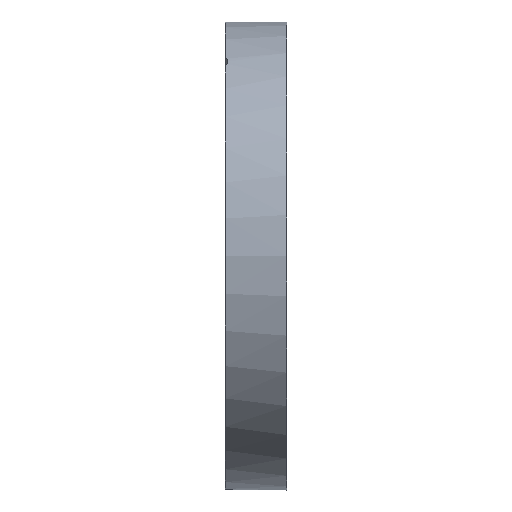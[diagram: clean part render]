
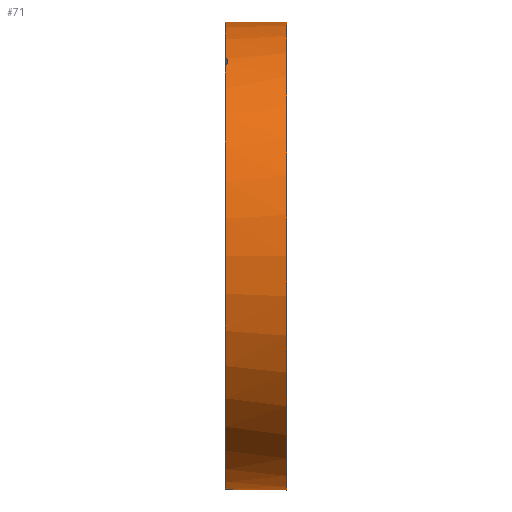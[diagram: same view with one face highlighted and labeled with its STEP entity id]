
A CAD part, top view. The second image highlights one B-rep face of the part: STEP entity #71.
In plain terms, the highlighted cylindrical face has radius 76 mm (diameter 152 mm), a full revolution.
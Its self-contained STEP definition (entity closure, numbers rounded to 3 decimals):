
#71 = ADVANCED_FACE( '', ( #171, #172 ), #173, .T. );
#171 = FACE_OUTER_BOUND( '', #322, .T. );
#172 = FACE_OUTER_BOUND( '', #323, .T. );
#173 = CYLINDRICAL_SURFACE( '', #324, 76. );
#322 = EDGE_LOOP( '', ( #488 ) );
#323 = EDGE_LOOP( '', ( #489, #490, #491, #492 ) );
#324 = AXIS2_PLACEMENT_3D( '', #493, #494, #495 );
#488 = ORIENTED_EDGE( '', *, *, #679, .T. );
#489 = ORIENTED_EDGE( '', *, *, #680, .F. );
#490 = ORIENTED_EDGE( '', *, *, #674, .F. );
#491 = ORIENTED_EDGE( '', *, *, #681, .F. );
#492 = ORIENTED_EDGE( '', *, *, #682, .F. );
#493 = CARTESIAN_POINT( '', ( -60., 0., 0. ) );
#494 = DIRECTION( '', ( 1., 0., 0. ) );
#495 = DIRECTION( '', ( 0., 0., 1. ) );
#674 = EDGE_CURVE( '', #777, #773, #779, .T. );
#679 = EDGE_CURVE( '', #786, #786, #787, .T. );
#680 = EDGE_CURVE( '', #773, #788, #789, .T. );
#681 = EDGE_CURVE( '', #790, #777, #791, .T. );
#682 = EDGE_CURVE( '', #788, #790, #792, .T. );
#773 = VERTEX_POINT( '', #902 );
#777 = VERTEX_POINT( '', #907 );
#779 = CIRCLE( '', #910, 76. );
#786 = VERTEX_POINT( '', #917 );
#787 = CIRCLE( '', #918, 76. );
#788 = VERTEX_POINT( '', #919 );
#789 = B_SPLINE_CURVE_WITH_KNOTS( '', 3, ( #920, #921, #922, #923, #924, #925, #926, #927, #928, #929, #930, #931, #932, #933, #934, #935, #936, #937 ), .UNSPECIFIED., .F., .F., ( 4, 2, 2, 2, 2, 2, 2, 2, 4 ), ( 0., 0.001, 0.001, 0.002, 0.002, 0.003, 0.003, 0.004, 0.004 ), .UNSPECIFIED. );
#790 = VERTEX_POINT( '', #938 );
#791 = B_SPLINE_CURVE_WITH_KNOTS( '', 3, ( #939, #940, #941, #942, #943, #944, #945, #946, #947, #948, #949, #950, #951, #952, #953, #954, #955, #956 ), .UNSPECIFIED., .F., .F., ( 4, 2, 2, 2, 2, 2, 2, 2, 4 ), ( 0., 0.001, 0.001, 0.002, 0.002, 0.003, 0.003, 0.004, 0.004 ), .UNSPECIFIED. );
#792 = CIRCLE( '', #957, 76. );
#902 = CARTESIAN_POINT( '', ( -19.9, -62.036, -43.904 ) );
#907 = CARTESIAN_POINT( '', ( -19.9, 64.302, 40.512 ) );
#910 = AXIS2_PLACEMENT_3D( '', #1119, #1120, #1121 );
#917 = CARTESIAN_POINT( '', ( 0., 0., 76. ) );
#918 = AXIS2_PLACEMENT_3D( '', #1128, #1129, #1130 );
#919 = CARTESIAN_POINT( '', ( -19.9, -64.302, -40.512 ) );
#920 = CARTESIAN_POINT( '', ( -19.9, -62.036, -43.904 ) );
#921 = CARTESIAN_POINT( '', ( -19.772, -62.116, -43.791 ) );
#922 = CARTESIAN_POINT( '', ( -19.659, -62.201, -43.67 ) );
#923 = CARTESIAN_POINT( '', ( -19.461, -62.381, -43.412 ) );
#924 = CARTESIAN_POINT( '', ( -19.376, -62.477, -43.274 ) );
#925 = CARTESIAN_POINT( '', ( -19.239, -62.675, -42.986 ) );
#926 = CARTESIAN_POINT( '', ( -19.187, -62.776, -42.839 ) );
#927 = CARTESIAN_POINT( '', ( -19.118, -62.982, -42.536 ) );
#928 = CARTESIAN_POINT( '', ( -19.1, -63.088, -42.379 ) );
#929 = CARTESIAN_POINT( '', ( -19.1, -63.295, -42.069 ) );
#930 = CARTESIAN_POINT( '', ( -19.117, -63.397, -41.914 ) );
#931 = CARTESIAN_POINT( '', ( -19.186, -63.599, -41.608 ) );
#932 = CARTESIAN_POINT( '', ( -19.239, -63.699, -41.455 ) );
#933 = CARTESIAN_POINT( '', ( -19.374, -63.887, -41.164 ) );
#934 = CARTESIAN_POINT( '', ( -19.458, -63.977, -41.024 ) );
#935 = CARTESIAN_POINT( '', ( -19.657, -64.148, -40.756 ) );
#936 = CARTESIAN_POINT( '', ( -19.772, -64.228, -40.629 ) );
#937 = CARTESIAN_POINT( '', ( -19.9, -64.302, -40.512 ) );
#938 = CARTESIAN_POINT( '', ( -19.9, 62.036, 43.904 ) );
#939 = CARTESIAN_POINT( '', ( -19.9, 62.036, 43.904 ) );
#940 = CARTESIAN_POINT( '', ( -19.772, 62.116, 43.791 ) );
#941 = CARTESIAN_POINT( '', ( -19.659, 62.201, 43.67 ) );
#942 = CARTESIAN_POINT( '', ( -19.461, 62.381, 43.412 ) );
#943 = CARTESIAN_POINT( '', ( -19.376, 62.477, 43.274 ) );
#944 = CARTESIAN_POINT( '', ( -19.239, 62.675, 42.986 ) );
#945 = CARTESIAN_POINT( '', ( -19.187, 62.776, 42.839 ) );
#946 = CARTESIAN_POINT( '', ( -19.118, 62.982, 42.536 ) );
#947 = CARTESIAN_POINT( '', ( -19.1, 63.088, 42.379 ) );
#948 = CARTESIAN_POINT( '', ( -19.1, 63.295, 42.069 ) );
#949 = CARTESIAN_POINT( '', ( -19.117, 63.397, 41.914 ) );
#950 = CARTESIAN_POINT( '', ( -19.186, 63.599, 41.608 ) );
#951 = CARTESIAN_POINT( '', ( -19.239, 63.699, 41.455 ) );
#952 = CARTESIAN_POINT( '', ( -19.374, 63.887, 41.164 ) );
#953 = CARTESIAN_POINT( '', ( -19.458, 63.977, 41.024 ) );
#954 = CARTESIAN_POINT( '', ( -19.657, 64.148, 40.756 ) );
#955 = CARTESIAN_POINT( '', ( -19.772, 64.228, 40.629 ) );
#956 = CARTESIAN_POINT( '', ( -19.9, 64.302, 40.512 ) );
#957 = AXIS2_PLACEMENT_3D( '', #1131, #1132, #1133 );
#1119 = CARTESIAN_POINT( '', ( -19.9, 0., 0. ) );
#1120 = DIRECTION( '', ( -1., 0., 0. ) );
#1121 = DIRECTION( '', ( 0., 0., 1. ) );
#1128 = CARTESIAN_POINT( '', ( 0., 0., 0. ) );
#1129 = DIRECTION( '', ( -1., 0., 0. ) );
#1130 = DIRECTION( '', ( 0., 0., 1. ) );
#1131 = CARTESIAN_POINT( '', ( -19.9, 0., 0. ) );
#1132 = DIRECTION( '', ( -1., 0., 0. ) );
#1133 = DIRECTION( '', ( 0., 0., 1. ) );
